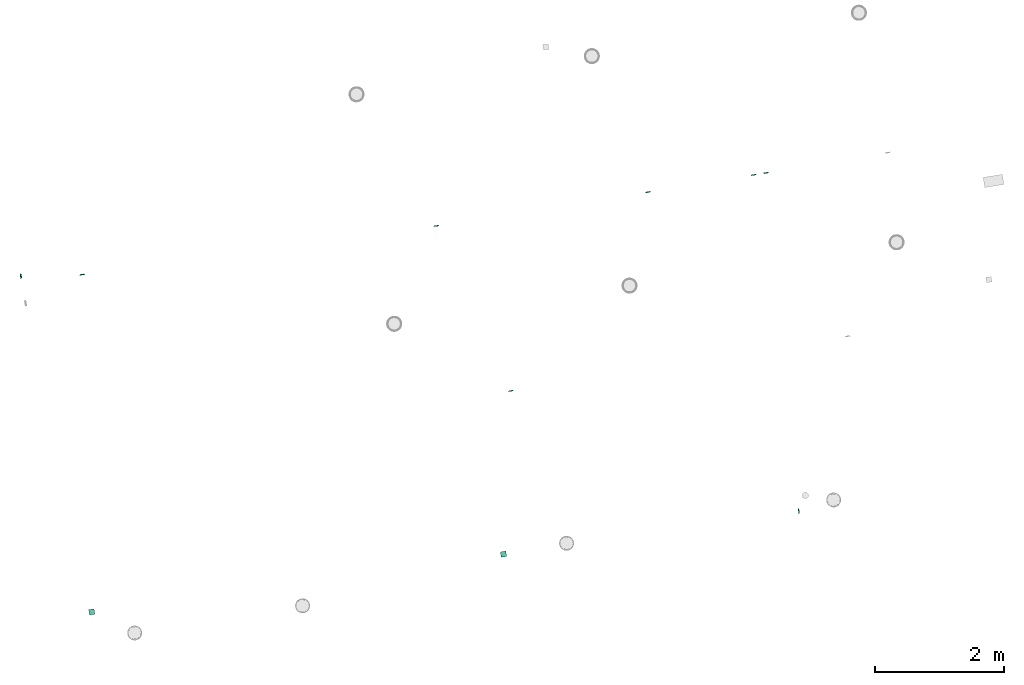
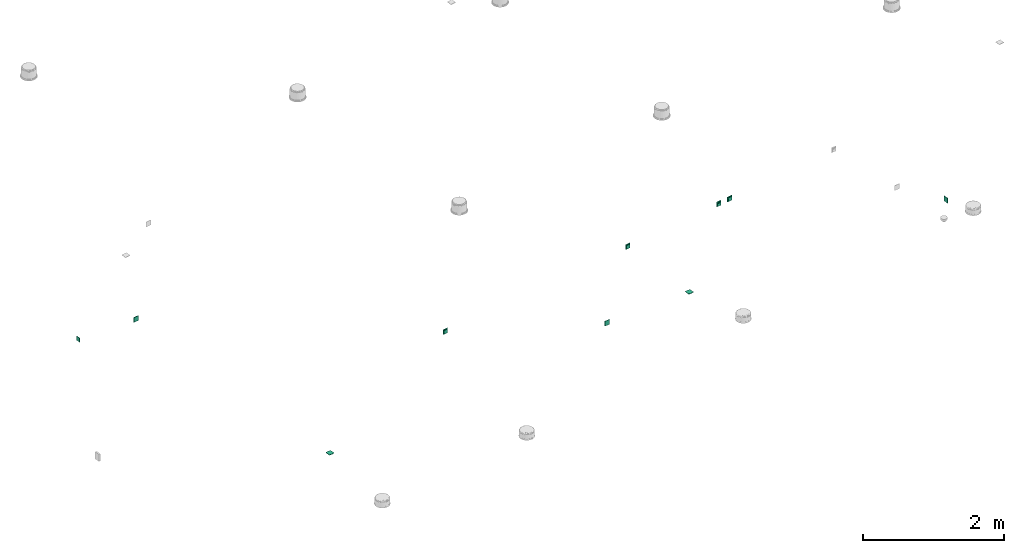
# One storey, part 1 of 4: 10 flow terminals.
"""IFC2X3 building model written with IfcOpenShell, lengths in millimetres."""

from ifc_helpers import new_model, entity, si_unit, converted_unit, derived_unit, direction, frame, frame_2d, origin, origin_with_axes, origin_2d_with_axis, place, context, subcontext, project, spatial, polyline, rectangle, outline, extrude, source, transform, mapped, material, type_object, element, save


model = new_model("IFC2X3")

# Units and contexts
model_context = context("Model", 3, precision=0.01, world=origin(), true_north=direction((6.12323399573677e-17, 1.0)))
plan_context = context("Plan", 3, precision=1e-05, world=origin_with_axes())
body_context = subcontext(model_context, "Body", "Model", "MODEL_VIEW")
ifc_project = project(units=[converted_unit("PLANEANGLEUNIT", "DEGREE", entity("IfcPositiveLengthMeasure", 0.0174532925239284), si_unit("PLANEANGLEUNIT", "RADIAN"), dimensions=[0, 0, 0, 0, 0, 0, 0]), si_unit("AREAUNIT", "SQUARE_METRE"), si_unit("LENGTHUNIT", "METRE", prefix="MILLI"), si_unit("MASSUNIT", "GRAM", prefix="KILO"), si_unit("POWERUNIT", "WATT"), si_unit("PRESSUREUNIT", "PASCAL", prefix="KILO"), si_unit("FORCEUNIT", "NEWTON", prefix="KILO"), si_unit("ELECTRICVOLTAGEUNIT", "VOLT"), si_unit("ELECTRICCURRENTUNIT", "AMPERE"), si_unit("THERMODYNAMICTEMPERATUREUNIT", "DEGREE_CELSIUS"), si_unit("TIMEUNIT", "SECOND"), si_unit("VOLUMEUNIT", "CUBIC_METRE"), derived_unit("LINEARVELOCITYUNIT", [(si_unit("LENGTHUNIT", "METRE"), 1), (si_unit("TIMEUNIT", "SECOND"), -1)]), derived_unit("VOLUMETRICFLOWRATEUNIT", [(si_unit("VOLUMEUNIT", "CUBIC_METRE"), 1), (si_unit("TIMEUNIT", "SECOND"), -1)]), derived_unit("THERMALTRANSMITTANCEUNIT", [(si_unit("POWERUNIT", "WATT"), 1), (si_unit("THERMODYNAMICTEMPERATUREUNIT", "KELVIN"), -1), (si_unit("AREAUNIT", "SQUARE_METRE"), -1)]), derived_unit("SOUNDPRESSUREUNIT", [(si_unit("PRESSUREUNIT", "PASCAL"), 1)])], contexts=[model_context, plan_context])

# Site, building, storey
site_placement = place(None, frame((-743.430438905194, 3176.84670324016, 0.0), z_axis=(0.0, 0.0, 1.0), x_axis=(-0.160236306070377, 0.987078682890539, 0.0)))
site = spatial("IfcSite", under=ifc_project, at=site_placement, Name="Default", CompositionType="ELEMENT")
building_placement = place(site_placement, origin_with_axes())
building = spatial("IfcBuilding", under=site, at=building_placement, CompositionType="ELEMENT")
storey_placement = place(building_placement, frame((0.0, 0.0, 50999.9999999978), z_axis=(0.0, 0.0, 1.0), x_axis=(1.0, 0.0, 0.0)))
storey = spatial("IfcBuildingStorey", under=building, at=storey_placement, Name="Nivå D", CompositionType="ELEMENT", Elevation=50999.9999999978)

# Flow terminals
ifc_material = material(Name="<Unnamed>")
electric_appliance_type_1 = type_object("IfcElectricApplianceType", Name="Tele-Data gen uttak dobbel:Tele-Data gen. uttak dobbel", PredefinedType="NOTDEFINED", material=ifc_material)
shared_shape_1 = source(origin(), body_context, "Body", "SweptSolid", [
    extrude(outline(polyline([(-32.5, -7.07106781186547), (32.5, -7.07106781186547), (42.5, 7.07106781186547), (-42.5, 7.07106781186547), (-32.5, -7.07106781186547)])), frame((0.0, 9.92928932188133, 37.4292893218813), z_axis=(0.0, 0.707106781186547, 0.707106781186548), x_axis=(-1.0, 0.0, 0.0)), (0.0, 0.0, 1.0), 0.200000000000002),
    extrude(outline(polyline([(-32.5, -7.07106781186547), (32.5, -7.07106781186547), (42.5, 7.07106781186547), (-42.5, 7.07106781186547), (-32.5, -7.07106781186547)])), frame((0.0, 10.0707106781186, -37.5707106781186), z_axis=(0.0, -0.707106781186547, 0.707106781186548), x_axis=(-1.0, 0.0, 0.0)), (0.0, 0.0, 1.0), 0.200000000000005),
    extrude(outline(polyline([(-30.3108891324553, -30.6186217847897), (-12.9903810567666, -30.6186217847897), (24.5373864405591, 22.4536559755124), (18.7638837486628, 38.7835875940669), (-30.3108891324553, -30.6186217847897)])), frame((-37.5707106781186, 10.0707106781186, 0.0), z_axis=(0.707106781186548, -0.707106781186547, 0.0), x_axis=(0.577350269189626, 0.577350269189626, 0.577350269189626)), (0.0, 0.0, 1.0), 0.199999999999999),
    extrude(outline(polyline([(-30.3108891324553, -30.6186217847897), (-12.9903810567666, -30.6186217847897), (24.5373864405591, 22.4536559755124), (18.7638837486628, 38.783587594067), (-30.3108891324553, -30.6186217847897)])), frame((37.4292893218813, 9.92928932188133, 0.0), z_axis=(0.707106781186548, 0.707106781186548, 0.0), x_axis=(-0.577350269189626, 0.577350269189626, 0.577350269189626)), (0.0, 0.0, 1.0), 0.199999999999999),
    extrude(rectangle(XDim=0.199999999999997, YDim=4.99999999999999, at=frame_2d((-4.2257863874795e-15, 0.0), x_axis=(1.0, 0.0))), frame((42.5, 2.5, -42.5)), (0.0, 0.0, 1.0), 84.9999999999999),
    extrude(rectangle(XDim=4.99999999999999, YDim=84.9999999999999, at=frame_2d((6.66133814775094e-16, 0.0), x_axis=(1.0, 0.0))), frame((0.0, 2.5, -42.6), z_axis=(0.0, 0.0, 1.0), x_axis=(0.0, -1.0, 0.0)), (0.0, 0.0, 1.0), 0.199999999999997),
    extrude(rectangle(XDim=0.199999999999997, YDim=4.99999999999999, at=frame_2d((-4.2257863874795e-15, 0.0), x_axis=(1.0, 0.0))), frame((-42.5, 2.5, -42.5)), (0.0, 0.0, 1.0), 84.9999999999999),
    extrude(rectangle(XDim=0.2, YDim=84.9999999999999, at=origin_2d_with_axis()), frame((0.0, 0.0, -42.5), z_axis=(0.0, 0.0, 1.0), x_axis=(0.0, 1.0, 0.0)), (0.0, 0.0, 1.0), 84.9999999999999),
    extrude(rectangle(XDim=4.99999999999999, YDim=84.9999999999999, at=frame_2d((6.66133814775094e-16, 0.0), x_axis=(1.0, 0.0))), frame((0.0, 2.5, 42.4), z_axis=(0.0, 0.0, 1.0), x_axis=(0.0, -1.0, 0.0)), (0.0, 0.0, 1.0), 0.199999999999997),
    extrude(rectangle(XDim=0.200000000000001, YDim=64.9999999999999, at=frame_2d((2.11636264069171e-15, 0.0), x_axis=(1.0, 0.0))), frame((0.0, 15.0, -32.5), z_axis=(0.0, 0.0, 1.0), x_axis=(0.0, 1.0, 0.0)), (0.0, 0.0, 1.0), 64.9999999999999),
    extrude(rectangle(XDim=0.199999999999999, YDim=15.0, at=frame_2d((1.06165076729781e-15, 0.0), x_axis=(1.0, 0.0))), frame((-10.0, 17.0099999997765, 0.500000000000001), z_axis=(0.0, 0.0, 1.0), x_axis=(0.0, 1.0, 0.0)), (0.0, 0.0, 1.0), 15.0),
    extrude(rectangle(XDim=0.199999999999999, YDim=15.0, at=frame_2d((1.06165076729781e-15, 0.0), x_axis=(1.0, 0.0))), frame((10.0, 17.0099999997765, 0.500000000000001), z_axis=(0.0, 0.0, 1.0), x_axis=(0.0, 1.0, 0.0)), (0.0, 0.0, 1.0), 15.0),
    extrude(rectangle(XDim=64.9999999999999, YDim=2.0, at=origin_2d_with_axis()), frame((0.0, 16.0, 27.5)), (0.0, 0.0, 1.0), 4.99999999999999),
    extrude(rectangle(XDim=64.9999999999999, YDim=2.0, at=origin_2d_with_axis()), frame((0.0, 16.0, -32.5)), (0.0, 0.0, 1.0), 50.0),
])
flow_terminal_1_placement = place(storey_placement, frame((766304.633690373, -600572.480461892, 3193.79471284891), z_axis=(0.0, 0.0, 1.0), x_axis=(-1.0, 0.0, 0.0)))
element("IfcFlowTerminal", 1, at=flow_terminal_1_placement, inside=storey, type_object=electric_appliance_type_1, material=ifc_material, Name="Tele-Data gen uttak dobbel:Tele-Data gen. uttak dobbel", ObjectType="Tele-Data gen uttak dobbel:Tele-Data gen. uttak dobbel", context=body_context, shape_type="MappedRepresentation", body=[
    mapped(shared_shape_1, transform((0.0, 0.0, 0.0), scale=1.0)),
])
electric_appliance_type_2 = type_object("IfcElectricApplianceType", Name="Tele-Data gen uttak dobbel:Tele-Data gen. uttak dobbel", PredefinedType="NOTDEFINED", material=ifc_material)
flow_terminal_2_placement = place(storey_placement, frame((771574.819644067, -600919.456546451, 200.0), z_axis=(0.0, 0.0, 1.0), x_axis=(0.0, 1.0, 0.0)))
element("IfcFlowTerminal", 2, at=flow_terminal_2_placement, inside=storey, type_object=electric_appliance_type_2, material=ifc_material, Name="Tele-Data gen uttak dobbel:Tele-Data gen. uttak dobbel", ObjectType="Tele-Data gen uttak dobbel:Tele-Data gen. uttak dobbel", context=body_context, shape_type="MappedRepresentation", body=[
    mapped(shared_shape_1, transform((0.0, 0.0, 0.0), scale=1.0)),
])
for number, where, z_axis, x_axis, name in (
    (3, (771574.819644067, -599062.480498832, 200.0), (0.0, 0.0, 1.0), (0.0, 1.0, 0.0), "Tele-Data gen uttak dobbel:Tele-Data gen. uttak dobbel"),
    (4, (771582.619644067, -595735.712231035, 200.0), (0.0, 0.0, 1.0), (0.0, 1.0, 0.0), "Tele-Data gen uttak dobbel:Tele-Data gen. uttak dobbel"),
    (5, (768852.619644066, -596468.524852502, 1500.0), (0.0, 0.0, 1.0), (0.0, -1.0, 0.0), "Tele-Data gen uttak dobbel:Tele-Data gen. uttak dobbel"),
):
    element("IfcFlowTerminal", number, at=place(storey_placement, frame(where, z_axis=z_axis, x_axis=x_axis)), inside=storey, type_object=electric_appliance_type_1, material=ifc_material, Name=name, ObjectType="Tele-Data gen uttak dobbel:Tele-Data gen. uttak dobbel", context=body_context, shape_type="MappedRepresentation", body=[
        mapped(shared_shape_1, transform((0.0, 0.0, 0.0), scale=1.0)),
    ])
electric_appliance_type_3 = type_object("IfcElectricApplianceType", Name="Tele-Data gen uttak dobbel:Tele-Data gen. uttak dobbel", PredefinedType="NOTDEFINED", material=ifc_material)
flow_terminal_3_placement = place(storey_placement, frame((771574.819644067, -600724.456546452, 200.0), z_axis=(0.0, 0.0, 1.0), x_axis=(0.0, 1.0, 0.0)))
element("IfcFlowTerminal", 6, at=flow_terminal_3_placement, inside=storey, type_object=electric_appliance_type_3, material=ifc_material, Name="Tele-Data gen uttak dobbel:Tele-Data gen. uttak dobbel", ObjectType="Tele-Data gen uttak dobbel:Tele-Data gen. uttak dobbel", context=body_context, shape_type="MappedRepresentation", body=[
    mapped(shared_shape_1, transform((0.0, 0.0, 0.0), scale=1.0)),
])
flow_terminal_4_placement = place(storey_placement, frame((771701.394732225, -590188.491560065, 2800.0), z_axis=(0.0, 0.0, 1.0), x_axis=(0.0, -1.0, 0.0)))
element("IfcFlowTerminal", 7, at=flow_terminal_4_placement, inside=storey, type_object=electric_appliance_type_1, material=ifc_material, Name="Tele-Data gen uttak dobbel:Tele-Data gen. uttak dobbel", ObjectType="Tele-Data gen uttak dobbel:Tele-Data gen. uttak dobbel", context=body_context, shape_type="MappedRepresentation", body=[
    mapped(shared_shape_1, transform((0.0, 0.0, 0.0), scale=1.0)),
])
electric_appliance_type_4 = type_object("IfcElectricApplianceType", Name="Tele-Data gen uttak dobbel Tak_U boks:Data_uttak_dobbel Tak_U boks", PredefinedType="NOTDEFINED", material=ifc_material)
shared_shape_2 = source(origin(), body_context, "Body", "SweptSolid", [
    extrude(outline(polyline([(-32.5, -7.07106781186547), (32.5, -7.07106781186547), (42.5, 7.07106781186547), (-42.5, 7.07106781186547), (-32.5, -7.07106781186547)])), frame((0.0, 37.3397713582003, -9.99008829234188), z_axis=(0.0, 0.707846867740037, -0.706365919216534), x_axis=(-1.0, 0.0, 0.0)), (0.0, 0.0, 1.0), 0.200000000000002),
    extrude(outline(polyline([(-32.5, -7.07106781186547), (32.5, -7.07106781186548), (42.5, 7.07106781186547), (-42.5, 7.07106781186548), (-32.5, -7.07106781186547)])), frame((0.0, -37.6600394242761, -10.2100487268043), z_axis=(0.0, 0.706365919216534, 0.707846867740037), x_axis=(-1.0, 0.0, 0.0)), (0.0, 0.0, 1.0), 0.199999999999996),
    extrude(outline(polyline([(-30.3108891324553, -30.6186217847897), (-12.9903810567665, -30.6186217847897), (24.537386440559, 22.4536559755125), (18.7638837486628, 38.783587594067), (-30.3108891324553, -30.6186217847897)])), frame((-37.5707106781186, -0.0893493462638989, -10.1707051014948), z_axis=(0.707106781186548, -0.000740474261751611, 0.707106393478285), x_axis=(0.577350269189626, 0.57795454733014, -0.576745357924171)), (0.0, 0.0, 1.0), 0.199999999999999),
    extrude(outline(polyline([(-42.5, -7.07106781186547), (42.5, -7.07106781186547), (32.5, 7.07106781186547), (-32.5, 7.07106781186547), (-42.5, -7.07106781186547)])), frame((37.5707106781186, -0.089349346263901, -10.1707051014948), z_axis=(-0.707106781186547, -0.000740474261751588, 0.707106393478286), x_axis=(0.0, 0.999999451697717, 0.0010471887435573)), (0.0, 0.0, 1.0), 0.200000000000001),
    extrude(rectangle(XDim=84.9999999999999, YDim=0.199999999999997, at=frame_2d((4.2257863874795e-15, 0.0), x_axis=(0.0, 1.0))), frame((42.5, -0.0946593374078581, -5.09999720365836), z_axis=(0.0, -0.0010471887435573, 0.999999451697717), x_axis=(1.0, 0.0, 0.0)), (0.0, 0.0, 1.0), 4.99999999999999),
    extrude(rectangle(XDim=0.199999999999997, YDim=84.9999999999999, at=origin_2d_with_axis()), frame((0.0, -42.5946360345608, -5.14450272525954), z_axis=(0.0, -0.00104718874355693, 0.999999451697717), x_axis=(0.0, 0.999999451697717, 0.00104718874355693)), (0.0, 0.0, 1.0), 5.0),
    extrude(rectangle(XDim=84.9999999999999, YDim=0.199999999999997, at=frame_2d((4.2257863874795e-15, 0.0), x_axis=(0.0, 1.0))), frame((-42.5, -0.0946593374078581, -5.09999720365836), z_axis=(0.0, -0.0010471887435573, 0.999999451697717), x_axis=(1.0, 0.0, 0.0)), (0.0, 0.0, 1.0), 4.99999999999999),
    extrude(rectangle(XDim=84.9999999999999, YDim=84.9999999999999, at=origin_2d_with_axis()), frame((0.0, -0.0997905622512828, -0.199999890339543), z_axis=(0.0, -0.0010471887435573, 0.999999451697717), x_axis=(0.0, 0.999999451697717, 0.0010471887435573)), (0.0, 0.0, 1.0), 0.2),
    extrude(rectangle(XDim=0.199999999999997, YDim=84.9999999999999, at=origin_2d_with_axis()), frame((0.0, 42.4053173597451, -5.05549168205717), z_axis=(0.0, -0.00104718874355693, 0.999999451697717), x_axis=(0.0, 0.999999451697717, 0.00104718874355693)), (0.0, 0.0, 1.0), 4.99999999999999),
    extrude(rectangle(XDim=65.0, YDim=64.9999999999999, at=frame_2d((-7.105427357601e-15, -3.5527136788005e-15), x_axis=(1.0, 0.0))), frame((0.0, -0.0840827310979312, -15.1999916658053), z_axis=(0.0, -0.00104718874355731, 0.999999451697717), x_axis=(0.0, 0.999999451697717, 0.00104718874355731)), (0.0, 0.0, 1.0), 0.200000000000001),
    extrude(rectangle(XDim=15.0, YDim=15.0, at=origin_2d_with_axis()), frame((-10.0, 7.91801773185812, -17.2016130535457), z_axis=(0.0, -0.00104718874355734, 0.999999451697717), x_axis=(0.0, 0.999999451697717, 0.00104718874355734)), (0.0, 0.0, 1.0), 0.200000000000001),
    extrude(rectangle(XDim=15.0, YDim=15.0, at=origin_2d_with_axis()), frame((10.0, 7.91801773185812, -17.2016130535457), z_axis=(0.0, -0.00104718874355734, 0.999999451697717), x_axis=(0.0, 0.999999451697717, 0.00104718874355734)), (0.0, 0.0, 1.0), 0.200000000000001),
    extrude(rectangle(XDim=4.99999999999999, YDim=65.0, at=frame_2d((2.22044604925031e-15, 0.0), x_axis=(1.0, 0.0))), frame((0.0, 29.9178904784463, -17.0685749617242), z_axis=(0.0, -0.00104718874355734, 0.999999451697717), x_axis=(0.0, -0.999999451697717, -0.00104718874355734)), (0.0, 0.0, 1.0), 2.0),
    extrude(rectangle(XDim=50.0, YDim=65.0, at=origin_2d_with_axis()), frame((0.0, -7.58208896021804, -17.1078445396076), z_axis=(0.0, -0.0010471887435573, 0.999999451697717), x_axis=(0.0, -0.999999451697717, -0.0010471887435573)), (0.0, 0.0, 1.0), 2.0),
])
for number, where, z_axis, x_axis, name in (
    (8, (766377.619644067, -595947.975418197, 3610.0000000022), (0.0, 0.0, 1.0), (0.0, 1.0, 0.0), "Tele-Data gen uttak dobbel Tak_U boks:Data_uttak_dobbel Tak_U boks"),
    (9, (766517.292619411, -589496.78148175, 3610.0), (0.0, 0.0, 1.0), (0.0, 1.0, 0.0), "Tele-Data gen uttak dobbel Tak_U boks:Data_uttak_dobbel Tak_U boks"),
):
    element("IfcFlowTerminal", number, at=place(storey_placement, frame(where, z_axis=z_axis, x_axis=x_axis)), inside=storey, type_object=electric_appliance_type_4, material=ifc_material, Name=name, ObjectType="Tele-Data gen uttak dobbel Tak_U boks:Data_uttak_dobbel Tak_U boks", context=body_context, shape_type="MappedRepresentation", body=[
        mapped(shared_shape_2, transform((0.0, 0.0, 0.0), scale=1.0)),
    ])
electric_appliance_type_5 = type_object("IfcElectricApplianceType", Name="Tele Data gen uttak enkel:Data socket-1", PredefinedType="NOTDEFINED", material=ifc_material)
shared_shape_3 = source(origin(), body_context, "Body", "SweptSolid", [
    extrude(outline(polyline([(-25.5, -7.07106781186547), (25.5, -7.07106781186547), (35.5, 7.07106781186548), (-35.5, 7.07106781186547), (-25.5, -7.07106781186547)])), frame((0.0, 10.0707106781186, -30.5707106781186), z_axis=(0.0, -0.707106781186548, 0.707106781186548), x_axis=(-1.0, 0.0, 0.0)), (0.0, 0.0, 1.0), 0.199999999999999),
    extrude(outline(polyline([(-25.5, -7.07106781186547), (25.5, -7.07106781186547), (35.5, 7.07106781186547), (-35.5, 7.07106781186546), (-25.5, -7.07106781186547)])), frame((0.0, 9.92928932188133, 30.4292893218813), z_axis=(0.0, 0.707106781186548, 0.707106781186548), x_axis=(-1.0, 0.0, 0.0)), (0.0, 0.0, 1.0), 0.199999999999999),
    extrude(outline(polyline([(-26.2694372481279, -24.9031457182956), (-8.94892917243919, -24.9031457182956), (20.4959345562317, 16.7381799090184), (14.7224318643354, 33.0681115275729), (-26.2694372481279, -24.9031457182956)])), frame((30.4292893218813, 9.92928932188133, 0.0), z_axis=(0.707106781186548, 0.707106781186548, 0.0), x_axis=(-0.577350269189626, 0.577350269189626, 0.577350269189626)), (0.0, 0.0, 1.0), 0.199999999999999),
    extrude(outline(polyline([(-26.2694372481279, -24.9031457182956), (-8.94892917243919, -24.9031457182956), (20.4959345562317, 16.7381799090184), (14.7224318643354, 33.0681115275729), (-26.2694372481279, -24.9031457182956)])), frame((-30.5707106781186, 10.0707106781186, 0.0), z_axis=(0.707106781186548, -0.707106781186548, 0.0), x_axis=(0.577350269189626, 0.577350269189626, 0.577350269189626)), (0.0, 0.0, 1.0), 0.199999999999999),
    extrude(rectangle(XDim=0.200000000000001, YDim=50.9999999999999, at=frame_2d((2.11636264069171e-15, 1.77635683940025e-15), x_axis=(1.0, 0.0))), frame((0.0, 15.0, -25.5), z_axis=(0.0, 0.0, 1.0), x_axis=(0.0, 1.0, 0.0)), (0.0, 0.0, 1.0), 50.9999999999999),
    extrude(rectangle(XDim=0.199999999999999, YDim=9.99999999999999, at=frame_2d((1.06165076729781e-15, 0.0), x_axis=(1.0, 0.0))), frame((0.0, 17.0099999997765, -18.5), z_axis=(0.0, 0.0, 1.0), x_axis=(0.0, 1.0, 0.0)), (0.0, 0.0, 1.0), 9.99999999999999),
    extrude(rectangle(XDim=70.9999999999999, YDim=4.99999999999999, at=origin_2d_with_axis()), frame((0.0, 2.5, -35.5)), (0.0, 0.0, 1.0), 70.9999999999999),
    extrude(rectangle(XDim=47.0, YDim=2.0, at=origin_2d_with_axis()), frame((0.0, 16.0, -23.5)), (0.0, 0.0, 1.0), 47.0),
])
flow_terminal_5_placement = place(storey_placement, frame((771837.619644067, -589237.48173883, 2800.0), z_axis=(0.0, 0.0, 1.0), x_axis=(-1.0, 0.0, 0.0)))
element("IfcFlowTerminal", 10, at=flow_terminal_5_placement, inside=storey, type_object=electric_appliance_type_5, material=ifc_material, Name="Tele Data gen uttak enkel:Data socket-1", ObjectType="Tele Data gen uttak enkel:Data socket-1", context=body_context, shape_type="MappedRepresentation", body=[
    mapped(shared_shape_3, transform((0.0, 0.0, 0.0), scale=1.0)),
])

save(model, "model.ifc")
